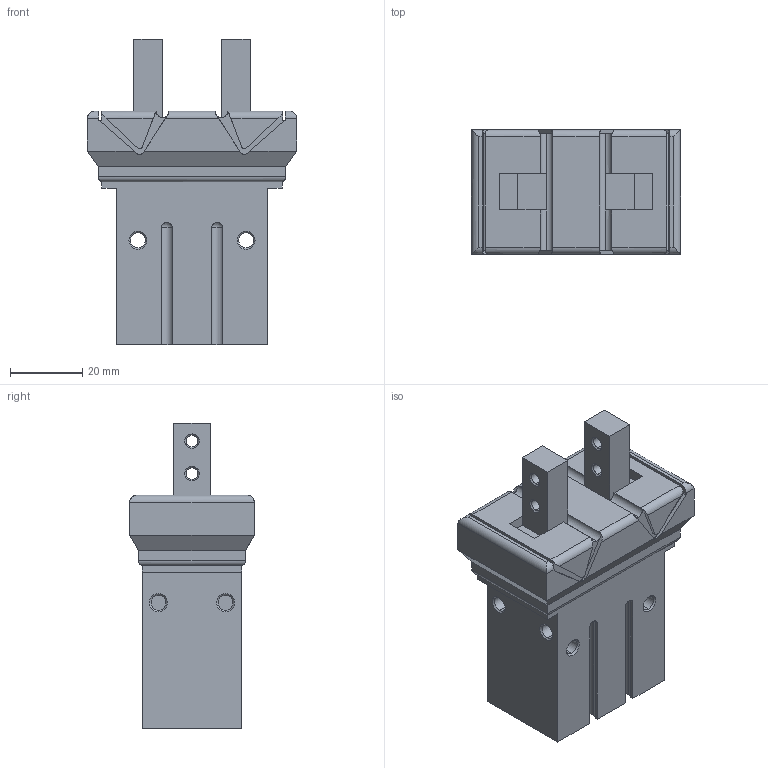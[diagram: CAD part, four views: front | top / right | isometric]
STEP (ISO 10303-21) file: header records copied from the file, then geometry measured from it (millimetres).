
FILE_DESCRIPTION (( 'STEP AP203' ), '1' );
FILE_NAME ('CHZJ2-20D.STEP', '2021-06-14T18:56:33', ( '' ), ( '' ), 'SwSTEP 2.0', 'SolidWorks 2019', '' );
FILE_SCHEMA (( 'CONFIG_CONTROL_DESIGN' ));
Length unit declared in the file: millimetre
Products named in the file (1): CHZJ2-20D
Bounding box: 58 x 34.6 x 84.8 mm (x, y, z)
Volume: 86635.1 mm3; surface area: 18975.1 mm2
Topology: 3 solids, 3 shells, 241 faces, 604 edges, 378 vertices
Faces by surface type: plane 101, cylinder 92, cone 44, sphere 4
Entity records: 7219 total; most frequent: CARTESIAN_POINT 1350, DIRECTION 1246, ORIENTED_EDGE 1188, EDGE_CURVE 594, AXIS2_PLACEMENT_3D 444, VERTEX_POINT 372, LINE 358, VECTOR 358
